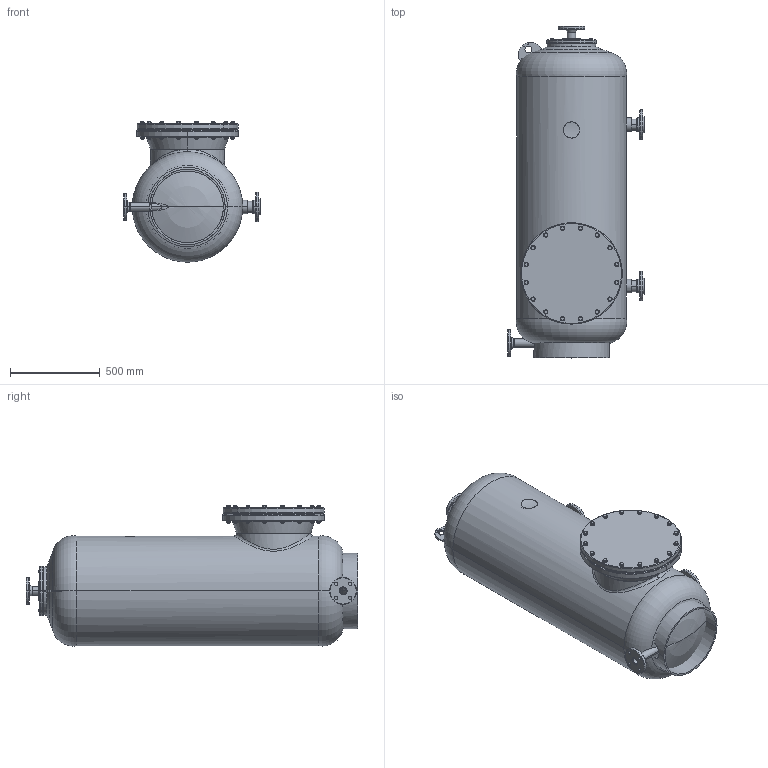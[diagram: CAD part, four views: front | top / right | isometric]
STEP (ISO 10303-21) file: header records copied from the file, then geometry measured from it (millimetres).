
FILE_DESCRIPTION (( 'STEP AP214' ), '1' );
FILE_NAME ('adriatic60c_sb1000.STEP', '2020-11-04T09:06:10', ( '' ), ( '' ), 'SwSTEP 2.0', 'SolidWorks 2019', '' );
FILE_SCHEMA (( 'AUTOMOTIVE_DESIGN' ));
Length unit declared in the file: millimetre
Products named in the file (1): adriatic60c_sb1000
Bounding box: 761.91 x 1849.94 x 781.12 mm (x, y, z)
Surface area: 9055419.8 mm2 (no closed solid volume)
Topology: 0 solids, 106 shells, 1621 faces, 3587 edges, 2192 vertices
Faces by surface type: cone 542, cylinder 499, plane 481, torus 76, sphere 19, bspline 4
Entity records: 86566 total; most frequent: CARTESIAN_POINT 33002, DIRECTION 7129, ORIENTED_EDGE 7064, EDGE_CURVE 3548, AXIS2_PLACEMENT_3D 3077, VERTEX_POINT 2177, EDGE_LOOP 1927, UNCERTAINTY_MEASURE_WITH_UNIT 1714
